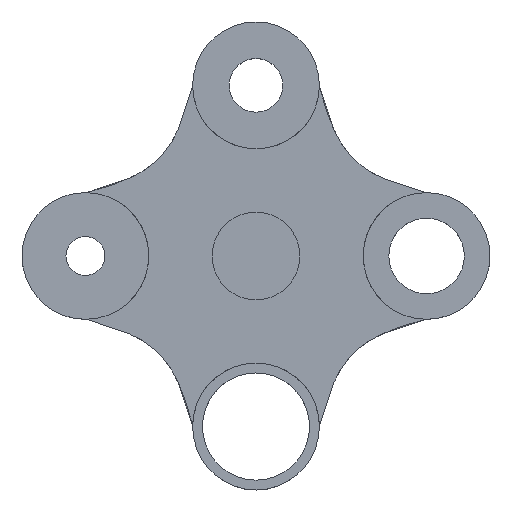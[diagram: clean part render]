
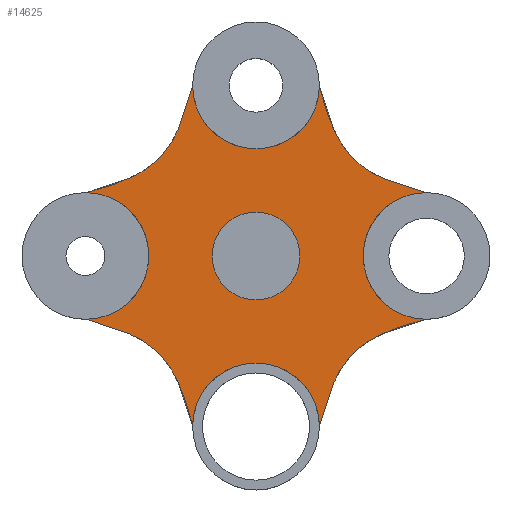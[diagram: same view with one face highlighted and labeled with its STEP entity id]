
A CAD part, top view. The second image highlights one B-rep face of the part: STEP entity #14625.
In plain terms, the highlighted planar face has unit normal (0, 0, 1).
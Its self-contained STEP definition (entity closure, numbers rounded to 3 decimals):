
#15=(
BOUNDED_CURVE()
B_SPLINE_CURVE(2,(#26378,#26379,#26380),.UNSPECIFIED.,.F.,.F.)
B_SPLINE_CURVE_WITH_KNOTS((3,3),(0.,3.266),.UNSPECIFIED.)
CURVE()
GEOMETRIC_REPRESENTATION_ITEM()
RATIONAL_B_SPLINE_CURVE((1.,1.583,1.))
REPRESENTATION_ITEM('')
);
#16=(
BOUNDED_CURVE()
B_SPLINE_CURVE(2,(#26391,#26392,#26393),.UNSPECIFIED.,.F.,.F.)
B_SPLINE_CURVE_WITH_KNOTS((3,3),(0.,3.266),.UNSPECIFIED.)
CURVE()
GEOMETRIC_REPRESENTATION_ITEM()
RATIONAL_B_SPLINE_CURVE((1.,1.583,1.))
REPRESENTATION_ITEM('')
);
#17=(
BOUNDED_CURVE()
B_SPLINE_CURVE(2,(#26404,#26405,#26406),.UNSPECIFIED.,.F.,.F.)
B_SPLINE_CURVE_WITH_KNOTS((3,3),(0.,3.266),.UNSPECIFIED.)
CURVE()
GEOMETRIC_REPRESENTATION_ITEM()
RATIONAL_B_SPLINE_CURVE((1.,1.583,1.))
REPRESENTATION_ITEM('')
);
#18=(
BOUNDED_CURVE()
B_SPLINE_CURVE(2,(#26417,#26418,#26419),.UNSPECIFIED.,.F.,.F.)
B_SPLINE_CURVE_WITH_KNOTS((3,3),(0.,3.266),.UNSPECIFIED.)
CURVE()
GEOMETRIC_REPRESENTATION_ITEM()
RATIONAL_B_SPLINE_CURVE((1.,1.583,1.))
REPRESENTATION_ITEM('')
);
#54=CIRCLE('',#14921,9.);
#56=CIRCLE('',#14926,13.);
#57=CIRCLE('',#14927,13.);
#58=CIRCLE('',#14928,13.);
#59=CIRCLE('',#14929,13.);
#142=FACE_BOUND('',#3388,.T.);
#2534=FACE_OUTER_BOUND('',#3387,.T.);
#3387=EDGE_LOOP('',(#13553,#13554,#13555,#13556,#13557,#13558,#13559,#13560));
#3388=EDGE_LOOP('',(#13561));
#7009=VERTEX_POINT('',#26361);
#7011=VERTEX_POINT('',#26375);
#7012=VERTEX_POINT('',#26377);
#7013=VERTEX_POINT('',#26388);
#7014=VERTEX_POINT('',#26390);
#7015=VERTEX_POINT('',#26401);
#7016=VERTEX_POINT('',#26403);
#7017=VERTEX_POINT('',#26414);
#7018=VERTEX_POINT('',#26416);
#9189=EDGE_CURVE('',#7009,#7009,#54,.T.);
#9193=EDGE_CURVE('',#7012,#7011,#15,.T.);
#9196=EDGE_CURVE('',#7014,#7013,#16,.T.);
#9199=EDGE_CURVE('',#7016,#7015,#17,.T.);
#9202=EDGE_CURVE('',#7018,#7017,#18,.T.);
#9204=EDGE_CURVE('',#7018,#7011,#56,.T.);
#9205=EDGE_CURVE('',#7016,#7017,#57,.T.);
#9206=EDGE_CURVE('',#7014,#7015,#58,.T.);
#9207=EDGE_CURVE('',#7012,#7013,#59,.T.);
#13553=ORIENTED_EDGE('',*,*,#9204,.F.);
#13554=ORIENTED_EDGE('',*,*,#9202,.T.);
#13555=ORIENTED_EDGE('',*,*,#9205,.F.);
#13556=ORIENTED_EDGE('',*,*,#9199,.T.);
#13557=ORIENTED_EDGE('',*,*,#9206,.F.);
#13558=ORIENTED_EDGE('',*,*,#9196,.T.);
#13559=ORIENTED_EDGE('',*,*,#9207,.F.);
#13560=ORIENTED_EDGE('',*,*,#9193,.T.);
#13561=ORIENTED_EDGE('',*,*,#9189,.T.);
#13840=PLANE('',#14925);
#14625=ADVANCED_FACE('',(#2534,#142),#13840,.F.);
#14921=AXIS2_PLACEMENT_3D('',#26363,#16554,#16555);
#14925=AXIS2_PLACEMENT_3D('',#26421,#16571,#16572);
#14926=AXIS2_PLACEMENT_3D('',#26422,#16573,#16574);
#14927=AXIS2_PLACEMENT_3D('',#26423,#16575,#16576);
#14928=AXIS2_PLACEMENT_3D('',#26424,#16577,#16578);
#14929=AXIS2_PLACEMENT_3D('',#26425,#16579,#16580);
#16554=DIRECTION('center_axis',(0.,0.,-1.));
#16555=DIRECTION('ref_axis',(1.,0.,0.));
#16571=DIRECTION('center_axis',(0.,0.,-1.));
#16572=DIRECTION('ref_axis',(1.,0.,0.));
#16573=DIRECTION('center_axis',(0.,0.,1.));
#16574=DIRECTION('ref_axis',(-1.,0.,0.));
#16575=DIRECTION('center_axis',(0.,0.,1.));
#16576=DIRECTION('ref_axis',(0.,-1.,0.));
#16577=DIRECTION('center_axis',(0.,0.,1.));
#16578=DIRECTION('ref_axis',(1.,0.,0.));
#16579=DIRECTION('center_axis',(0.,0.,1.));
#16580=DIRECTION('ref_axis',(0.,1.,0.));
#26361=CARTESIAN_POINT('',(31.,14.,-2.));
#26363=CARTESIAN_POINT('Origin',(40.,14.,-2.));
#26375=CARTESIAN_POINT('',(52.997,48.731,-2.));
#26377=CARTESIAN_POINT('',(74.731,26.997,-2.));
#26378=CARTESIAN_POINT('Ctrl Pts',(74.731,26.997,-2.));
#26379=CARTESIAN_POINT('Ctrl Pts',(57.5,31.5,-2.));
#26380=CARTESIAN_POINT('Ctrl Pts',(52.997,48.731,-2.));
#26388=CARTESIAN_POINT('',(74.731,1.003,-2.));
#26390=CARTESIAN_POINT('',(52.997,-20.731,-2.));
#26391=CARTESIAN_POINT('Ctrl Pts',(52.997,-20.731,-2.));
#26392=CARTESIAN_POINT('Ctrl Pts',(57.5,-3.5,-2.));
#26393=CARTESIAN_POINT('Ctrl Pts',(74.731,1.003,-2.));
#26401=CARTESIAN_POINT('',(27.003,-20.731,-2.));
#26403=CARTESIAN_POINT('',(5.269,1.003,-2.));
#26404=CARTESIAN_POINT('Ctrl Pts',(5.269,1.003,-2.));
#26405=CARTESIAN_POINT('Ctrl Pts',(22.5,-3.5,-2.));
#26406=CARTESIAN_POINT('Ctrl Pts',(27.003,-20.731,-2.));
#26414=CARTESIAN_POINT('',(5.269,26.997,-2.));
#26416=CARTESIAN_POINT('',(27.003,48.731,-2.));
#26417=CARTESIAN_POINT('Ctrl Pts',(27.003,48.731,-2.));
#26418=CARTESIAN_POINT('Ctrl Pts',(22.5,31.5,-2.));
#26419=CARTESIAN_POINT('Ctrl Pts',(5.269,26.997,-2.));
#26421=CARTESIAN_POINT('Origin',(40.,14.,-2.));
#26422=CARTESIAN_POINT('Origin',(40.,49.,-2.));
#26423=CARTESIAN_POINT('Origin',(5.,14.,-2.));
#26424=CARTESIAN_POINT('Origin',(40.,-21.,-2.));
#26425=CARTESIAN_POINT('Origin',(75.,14.,-2.));
